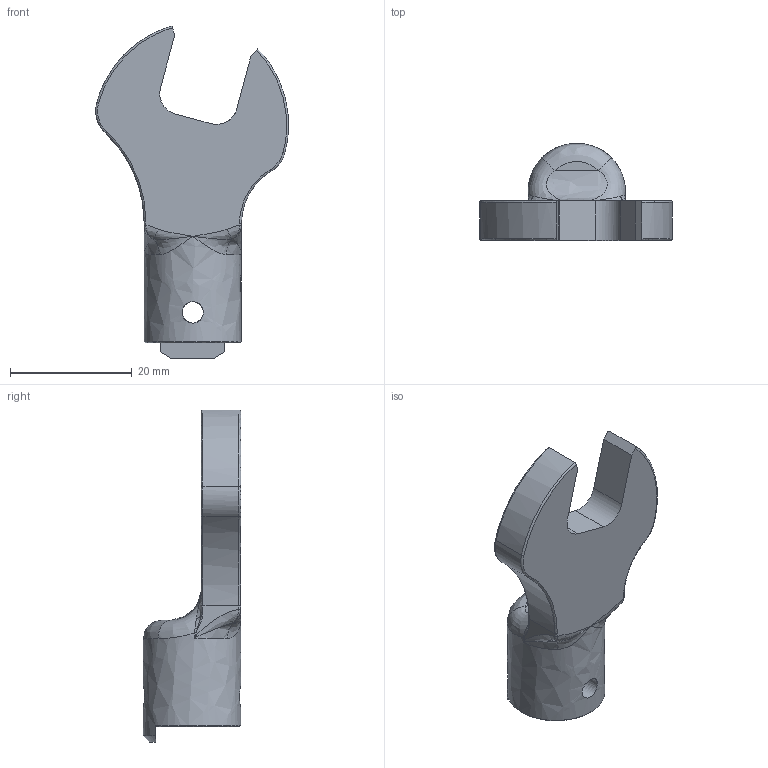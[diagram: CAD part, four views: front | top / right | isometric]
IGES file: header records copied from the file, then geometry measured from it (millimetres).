
Global section: file name: SH10DX13; native system: Autodesk Inventor 2016; preprocessor: unknown; author: Q600; date: 20151029.185533; units: millimetre
Bounding box: 31.66 x 16 x 54.58 mm (x, y, z)
Volume: 6515.6 mm3; surface area: 3792.9 mm2
Topology: 1 solids, 1 shells, 78 faces, 207 edges, 119 vertices
Faces by surface type: bspline 78
